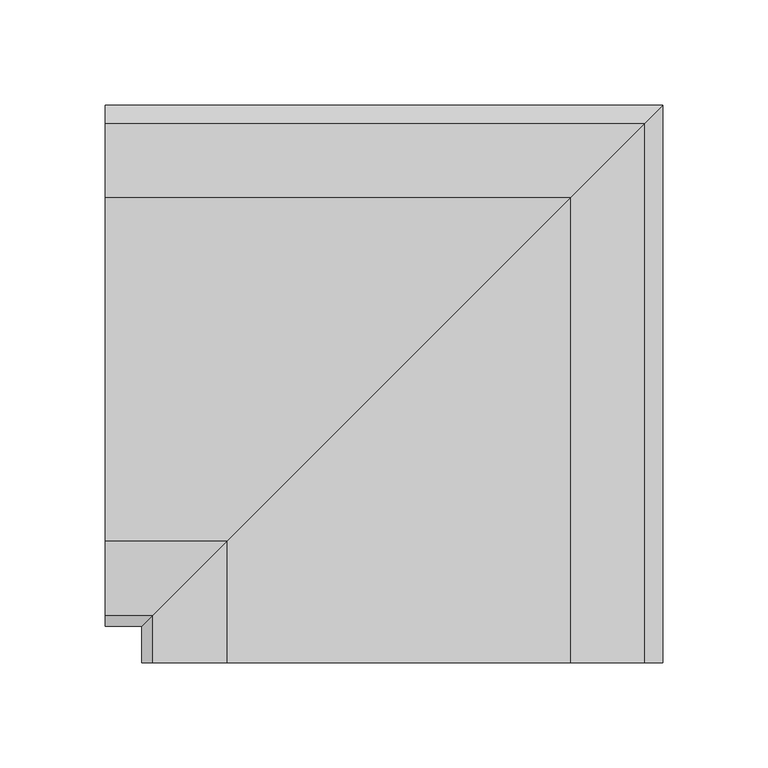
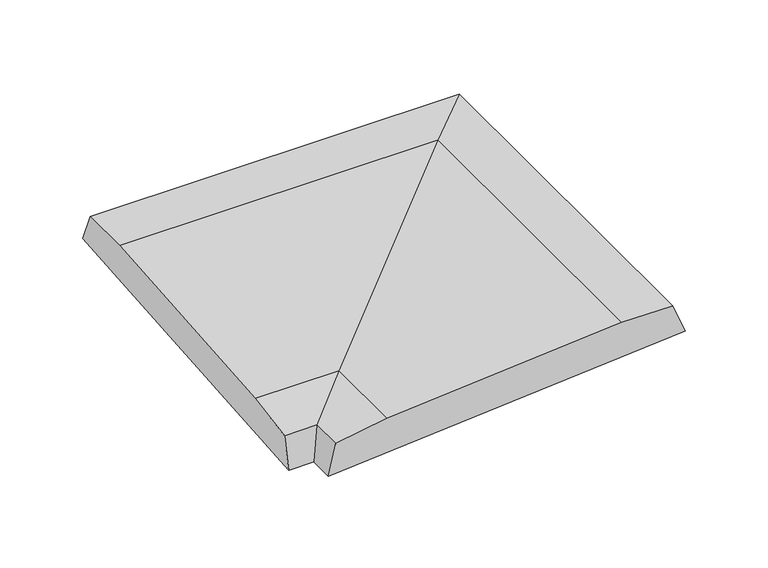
"""IFC4 building model written with IfcOpenShell, lengths in millimetres: proxy geometry, ROSA GRES_245 EF : Pieza 245 EF_Tao_Beige_Anti-Slip."""

import ifcopenshell
import ifcopenshell.guid

model = None  # the IFC model being written
_history = None  # IfcOwnerHistory: only IFC2X3 demands one
_inside = {}  # id of a spatial element -> (the spatial element, [elements in it])
_under = {}  # id of a project, library or spatial element -> (it, [spatial elements below it])
_declared = {}  # id of a project -> (the project, [libraries it declares])
_typed = {}  # id of a type object -> (the type object, [elements of that type])
_made_of = {}  # id of a material, layer set ... -> (it, [elements and type objects made of it])


def new_model(schema):
    """Start an empty IFC model of exactly this schema.

    Asked for "IFC4X3", IfcOpenShell would pick the latest addendum, in which some entities
    have other attributes; the version numbers below select the first issue.
    IFC2X3 requires an IfcOwnerHistory on every rooted entity: one is made here for all.
    """
    global model, _history
    if schema == "IFC4X3":
        model = ifcopenshell.file(schema_version=(4, 3, 0, 0))
    else:
        model = ifcopenshell.file(schema=schema)
    _inside.clear()
    _under.clear()
    _declared.clear()
    _typed.clear()
    _made_of.clear()
    _history = None
    if model.schema == "IFC2X3":
        org = make("IfcOrganization", Name="unknown")
        user = make(
            "IfcPersonAndOrganization",
            ThePerson=make("IfcPerson", FamilyName="unknown"),
            TheOrganization=org,
        )
        app = make(
            "IfcApplication",
            ApplicationDeveloper=org,
            Version="unknown",
            ApplicationFullName="unknown",
            ApplicationIdentifier="unknown",
        )
        _history = make(
            "IfcOwnerHistory",
            OwningUser=user,
            OwningApplication=app,
            ChangeAction="ADDED",
            CreationDate=0,
        )
    return model


def make(cls, **values):
    """One entity of the class cls with the attributes given. An attribute that is None is left unset."""
    return model.create_entity(
        cls, **{name: value for name, value in values.items() if value is not None}
    )


def rooted(cls, **values):
    """An entity with a GlobalId (a new one), such as an element, a storey or a relation."""
    return make(cls, GlobalId=ifcopenshell.guid.new(), OwnerHistory=_history, **values)


def si_unit(unit_type, name, prefix=None):
    """IfcSIUnit, for example si_unit("LENGTHUNIT", "METRE", prefix="MILLI")."""
    return make("IfcSIUnit", UnitType=unit_type, Prefix=prefix, Name=name)


def assignment(units):
    """IfcUnitAssignment: the units of a project."""
    return None if units is None else make("IfcUnitAssignment", Units=units)


def point(xyz):
    """IfcCartesianPoint."""
    return None if xyz is None else make("IfcCartesianPoint", Coordinates=xyz)


def direction(xyz):
    """IfcDirection."""
    return None if xyz is None else make("IfcDirection", DirectionRatios=xyz)


def frame(location, z_axis=None, x_axis=None):
    """IfcAxis2Placement3D, a coordinate frame: its origin and axes. An axis left out is left unset."""
    return make(
        "IfcAxis2Placement3D",
        Location=point(location),
        Axis=direction(z_axis),
        RefDirection=direction(x_axis),
    )


def origin():
    """The frame at (0, 0, 0) with its axes left unset."""
    return frame((0.0, 0.0, 0.0))


def place(relative_to, where):
    """IfcLocalPlacement: puts the frame where relative to a parent placement (None: the world)."""
    return make(
        "IfcLocalPlacement", PlacementRelTo=relative_to, RelativePlacement=where
    )


def context(
    kind, dimensions, precision=None, world=None, true_north=None, identifier=None
):
    """IfcGeometricRepresentationContext, for example the 3D "Model" context."""
    return make(
        "IfcGeometricRepresentationContext",
        ContextIdentifier=identifier,
        ContextType=kind,
        CoordinateSpaceDimension=dimensions,
        Precision=precision,
        WorldCoordinateSystem=world,
        TrueNorth=true_north,
    )


def project(units=None, contexts=None):
    """IfcProject with its units and contexts."""
    return rooted(
        "IfcProject",
        Name="project",
        RepresentationContexts=contexts,
        UnitsInContext=assignment(units),
    )


def spatial(cls, under=None, at=None, **own):
    """A site, building, storey or space (cls), placed at a placement, below another one or the project."""
    s = rooted(cls, ObjectPlacement=at, **own)
    if under is not None:
        _under.setdefault(under.id(), (under, []))[1].append(s)
    return s


def circle_curve(where, radius):
    """IfcCircle in the frame where."""
    return make("IfcCircle", Position=where, Radius=radius)


def ellipse_curve(where, semi_axis1, semi_axis2):
    """IfcEllipse in the frame where."""
    return make(
        "IfcEllipse", Position=where, SemiAxis1=semi_axis1, SemiAxis2=semi_axis2
    )


def shape(context_of_items, identifier, shape_type, items):
    """IfcShapeRepresentation: the items that make up one representation, for example the "Body"."""
    return make(
        "IfcShapeRepresentation",
        ContextOfItems=context_of_items,
        RepresentationIdentifier=identifier,
        RepresentationType=shape_type,
        Items=items,
    )


def source(mapping_origin, context_of_items, identifier, shape_type, items):
    """IfcRepresentationMap: a shape defined once, which mapped items show again and again."""
    return make(
        "IfcRepresentationMap",
        MappingOrigin=mapping_origin,
        MappedRepresentation=shape(context_of_items, identifier, shape_type, items),
    )


def transform(
    local_origin,
    x_axis=None,
    y_axis=None,
    z_axis=None,
    scale=None,
    scale2=None,
    scale3=None,
    uniform=True,
):
    """IfcCartesianTransformationOperator3D, or its non-uniform kind. x_axis, y_axis, z_axis: its Axis1, 2, 3."""
    if uniform:
        return make(
            "IfcCartesianTransformationOperator3D",
            Axis1=direction(x_axis),
            Axis2=direction(y_axis),
            LocalOrigin=point(local_origin),
            Scale=scale,
            Axis3=direction(z_axis),
        )
    return make(
        "IfcCartesianTransformationOperator3DnonUniform",
        Axis1=direction(x_axis),
        Axis2=direction(y_axis),
        LocalOrigin=point(local_origin),
        Scale=scale,
        Axis3=direction(z_axis),
        Scale2=scale2,
        Scale3=scale3,
    )


def mapped(mapping_source, mapping_target):
    """IfcMappedItem: shows the shape of a source again, moved by a transform."""
    return make(
        "IfcMappedItem", MappingSource=mapping_source, MappingTarget=mapping_target
    )


def made_of(thing, what):
    """Note that an element or type object is made of a material, layer set ...; save() writes the relation."""
    if what is not None:
        _made_of.setdefault(what.id(), (what, []))[1].append(thing)
    return thing


def element(
    cls,
    number,
    at=None,
    inside=None,
    cuts=None,
    type_object=None,
    material=None,
    context=None,
    identifier="Body",
    shape_type=None,
    held_by="IfcProductDefinitionShape",
    body=None,
    shapes=None,
    **own,
):
    """One element of the class cls, such as IfcWall. Its Tag is "e" and its number.

    at: its placement. inside: the storey or other place that contains it. cuts: it is an
    opening in that element (IfcRelVoidsElement). A single representation is given by context,
    identifier, shape_type and body (its items); several are given by shapes. held_by: the class
    of the entity that holds the representations. save() writes the other relations.
    """
    e = rooted(cls, Tag="e%d" % number, ObjectPlacement=at, **own)
    if body is not None:
        shapes = [shape(context, identifier, shape_type, body)]
    if shapes is not None:
        e.Representation = make(held_by, Representations=shapes)
    if inside is not None:
        _inside.setdefault(inside.id(), (inside, []))[1].append(e)
    if cuts is not None:
        rooted(
            "IfcRelVoidsElement", RelatingBuildingElement=cuts, RelatedOpeningElement=e
        )
    if type_object is not None:
        _typed.setdefault(type_object.id(), (type_object, []))[1].append(e)
    return made_of(e, material)


def aggregate(whole, parts):
    """IfcRelAggregates: a whole, such as a stair, and the parts it consists of."""
    return rooted("IfcRelAggregates", RelatingObject=whole, RelatedObjects=parts)


def save(model, path):
    """Write the relations noted so far, then the file.

    IfcRelAggregates (storeys below a building ...), IfcRelContainedInSpatialStructure (elements
    in a storey), IfcRelDefinesByType, IfcRelAssociatesMaterial and IfcRelDeclares: one each for
    every whole, place, type object, material and project.
    """
    for whole, parts in _under.values():
        aggregate(whole, parts)
    for where, things in _inside.values():
        rooted(
            "IfcRelContainedInSpatialStructure",
            RelatedElements=things,
            RelatingStructure=where,
        )
    for kind, things in _typed.values():
        rooted("IfcRelDefinesByType", RelatedObjects=things, RelatingType=kind)
    for what, things in _made_of.values():
        rooted("IfcRelAssociatesMaterial", RelatedObjects=things, RelatingMaterial=what)
    for by, libraries in _declared.values():
        rooted("IfcRelDeclares", RelatingContext=by, RelatedDefinitions=libraries)
    model.write(path)


def plane_surface(at):
    """IfcPlane: the flat surface through the origin of the frame at, square to its z axis."""
    return make("IfcPlane", Position=at)


def cylinder_surface(at, radius):
    """IfcCylindricalSurface: all points at the distance radius from the z axis of the frame at."""
    return make("IfcCylindricalSurface", Position=at, Radius=radius)


def advanced_brep(points, edges, surfaces, faces):
    """IfcAdvancedBrep: a solid bounded by faces that lie on surfaces and meet in shared edges.

    An edge is (start, end): straight between two places in points (the first is 0);
    or (start, end, curve); or (start, end, curve, False) where it runs against its curve.
    A face is (place in surfaces, loops), or (place, loops, False) where it looks against
    its surface's normal. A loop lists edges by number (the first is 1), with a minus sign
    where the edge is run from its end to its start. The first loop is the outer one.
    """
    corners = [point(p) for p in points]
    vertices = [make("IfcVertexPoint", VertexGeometry=c) for c in corners]
    made = []
    for start, end, *more in edges:
        made.append(
            make(
                "IfcEdgeCurve",
                EdgeStart=vertices[start],
                EdgeEnd=vertices[end],
                EdgeGeometry=more[0] if more else make("IfcPolyline", Points=[corners[start], corners[end]]),
                SameSense=more[1] if len(more) > 1 else True,
            )
        )
    hull = []
    for where, loops, *sense in faces:
        bounds = []
        for j, loop in enumerate(loops):
            ring = [make("IfcOrientedEdge", EdgeElement=made[abs(k) - 1], Orientation=k > 0) for k in loop]
            bounds.append(
                make(
                    "IfcFaceOuterBound" if j == 0 else "IfcFaceBound",
                    Bound=make("IfcEdgeLoop", EdgeList=ring),
                    Orientation=True,
                )
            )
        hull.append(make("IfcAdvancedFace", Bounds=bounds, FaceSurface=surfaces[where], SameSense=sense[0] if sense else True))
    return make("IfcAdvancedBrep", Outer=make("IfcClosedShell", CfsFaces=hull))


def generic_models_354e1113(model_context):
    return source(origin(), model_context, "Body", "AdvancedBrep", [
        advanced_brep(
        [(-265.5203405, -8.6405148, 244.3285715), (-265.5203405, 0.0, 222.9386957), (-265.5203405, -248.1409275, 202.7411783), (-265.5203405, -243.0955529, 225.1954084), (-265.5203405, -207.5752598, 231.1671992), (-265.5203405, -44.2087294, 244.464475), (-8.6405148, -265.5203405, 244.3285715), (-44.2087294, -265.5203405, 244.464475), (-207.5752598, -265.5203405, 231.1671992), (-243.0955529, -265.5203405, 225.1954084), (-248.1409275, -265.5203405, 202.7411783), (0.0, -265.5203405, 222.9386957), (-8.6405148, -8.6405148, 244.3285715), (0.0, 0.0, 222.9386957), (-248.1409275, -248.1409275, 202.7411783), (-243.0955529, -243.0955529, 225.1954084), (-207.5752598, -207.5752598, 231.1671992), (-44.2087294, -44.2087294, 244.464475)],
        [
            (0, 1),
            (1, 2),
            (2, 3),
            (3, 4, circle_curve(frame((-265.5203405, -105.7411176, -483.1671462), z_axis=(-1.0, 0.0, 0.0), x_axis=(0.0, 1.0, 0.0)), 721.556477)),
            (4, 5),
            (5, 0, circle_curve(frame((-265.5203405, -29.1807765, -476.9354905), z_axis=(-1.0, 0.0, 0.0), x_axis=(0.0, 1.0, 0.0)), 721.556477)),
            (6, 7, circle_curve(frame((-29.1807765, -265.5203405, -476.9354905), z_axis=(0.0, -1.0, 0.0), x_axis=(1.0, 0.0, 0.0)), 721.556477)),
            (7, 8),
            (8, 9, circle_curve(frame((-105.7411176, -265.5203405, -483.1671462), z_axis=(0.0, -1.0, 0.0), x_axis=(1.0, 0.0, 0.0)), 721.556477)),
            (9, 10),
            (10, 11),
            (11, 6),
            (0, 12),
            (12, 13),
            (13, 1),
            (13, 14),
            (14, 2),
            (14, 15),
            (15, 3),
            (15, 16, ellipse_curve(frame((-105.7411176, -105.7411176, -483.1671462), z_axis=(-0.7071067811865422, 0.7071067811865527, 0.0), x_axis=(-0.7071067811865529, -0.7071067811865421, 0.0)), 1020.4349559, 721.556477)),
            (16, 4),
            (16, 17),
            (17, 5),
            (17, 12, ellipse_curve(frame((-29.1807765, -29.1807765, -476.9354905), z_axis=(-0.7071067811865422, 0.7071067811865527, 0.0), x_axis=(-0.7071067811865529, -0.7071067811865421, 0.0)), 1020.4349559, 721.556477)),
            (12, 6),
            (11, 13),
            (10, 14),
            (9, 15),
            (8, 16),
            (7, 17),
        ],
        [
            plane_surface(frame((-265.5203405, 0.4796595, 0.0), z_axis=(-1.0, 0.0, 0.0), x_axis=(0.0, 0.0, 1.0))),
            plane_surface(frame((0.4796595, -265.5203405, 0.0), z_axis=(0.0, -1.0, 0.0), x_axis=(0.0, 0.0, 1.0))),
            plane_surface(frame((-265.5203405, -8.6405148, 244.3285715), z_axis=(0.0, 0.9272072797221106, 0.3745486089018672), x_axis=(1.0, 0.0, 0.0))),
            plane_surface(frame((-265.5203405, 0.0, 222.9386957), z_axis=(0.0, 0.08112705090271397, -0.9967037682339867), x_axis=(1.0, 0.0, 0.0))),
            plane_surface(frame((-265.5203405, -248.1409275, 202.7411783), z_axis=(0.0, -0.9756732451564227, 0.21922983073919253), x_axis=(1.0, 0.0, 0.0))),
            cylinder_surface(frame((-265.5203405, -105.7411176, -483.1671462), z_axis=(-1.0, 0.0, 0.0), x_axis=(0.0, 1.0, 0.0)), 721.556477),
            plane_surface(frame((-265.5203405, -207.5752598, 231.1671992), z_axis=(0.0, -0.08112705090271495, 0.9967037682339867), x_axis=(1.0, 0.0, 0.0))),
            cylinder_surface(frame((-265.5203405, -29.1807765, -476.9354905), z_axis=(-1.0, 0.0, 0.0), x_axis=(0.0, 1.0, 0.0)), 721.556477),
            plane_surface(frame((-8.6405148, -8.6405148, 244.3285715), z_axis=(0.9272072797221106, 0.0, 0.37454860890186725), x_axis=(0.0, -1.0, 0.0))),
            plane_surface(frame((0.0, 0.0, 222.9386957), z_axis=(0.08112705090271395, 0.0, -0.9967037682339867), x_axis=(0.0, -1.0, 0.0))),
            plane_surface(frame((-248.1409275, -248.1409275, 202.7411783), z_axis=(-0.9756732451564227, 0.0, 0.21922983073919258), x_axis=(0.0, -1.0, 0.0))),
            cylinder_surface(frame((-105.7411176, 0.4796595, -483.1671462), z_axis=(0.0, 1.0, 0.0), x_axis=(1.0, 0.0, 0.0)), 721.556477),
            plane_surface(frame((-207.5752598, -207.5752598, 231.1671992), z_axis=(-0.08112705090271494, 0.0, 0.9967037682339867), x_axis=(0.0, -1.0, 0.0))),
            cylinder_surface(frame((-29.1807765, 0.4796595, -476.9354905), z_axis=(0.0, 1.0, 0.0), x_axis=(1.0, 0.0, 0.0)), 721.556477),
        ],
        [
            (0, [[1, 2, 3, 4, 5, 6]]),
            (1, [[7, 8, 9, 10, 11, 12]]),
            (2, [[-1, 13, 14, 15]]),
            (3, [[-2, -15, 16, 17]]),
            (4, [[-3, -17, 18, 19]]),
            (5, [[-4, -19, 20, 21]]),
            (6, [[-5, -21, 22, 23]]),
            (7, [[-6, -23, 24, -13]]),
            (8, [[-14, 25, -12, 26]]),
            (9, [[-16, -26, -11, 27]]),
            (10, [[-18, -27, -10, 28]]),
            (11, [[-20, -28, -9, 29]]),
            (12, [[-22, -29, -8, 30]]),
            (13, [[-24, -30, -7, -25]]),
        ],
    ),
    ])


if __name__ == "__main__":
    model = new_model("IFC4")
    model_context = context("Model", 3, world=origin())
    ifc_project = project(units=[si_unit("LENGTHUNIT", "METRE", prefix="MILLI")], contexts=[model_context])
    site = spatial("IfcSite", under=ifc_project)
    building = spatial("IfcBuilding", under=site)
    placement = place(None, origin())
    generic_models_shape = generic_models_354e1113(model_context)
    element("IfcBuildingElementProxy", 1, Name="ROSA GRES_245 EF : Pieza 245 EF_Tao_Beige_Anti-Slip", ObjectType="ROSA GRES_245 EF : Pieza 245 EF_Tao_Beige_Anti-Slip", at=placement, inside=building, context=model_context, shape_type="MappedRepresentation", body=[
        mapped(generic_models_shape, transform((0.0, 0.0, 0.0), x_axis=(1.0, 0.0, 0.0), y_axis=(0.0, 1.0, 0.0), z_axis=(0.0, 0.0, 1.0))),
    ])
    save(model, "model.ifc")
